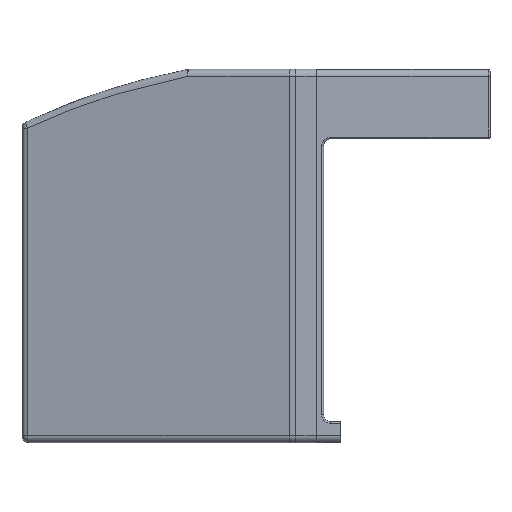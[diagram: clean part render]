
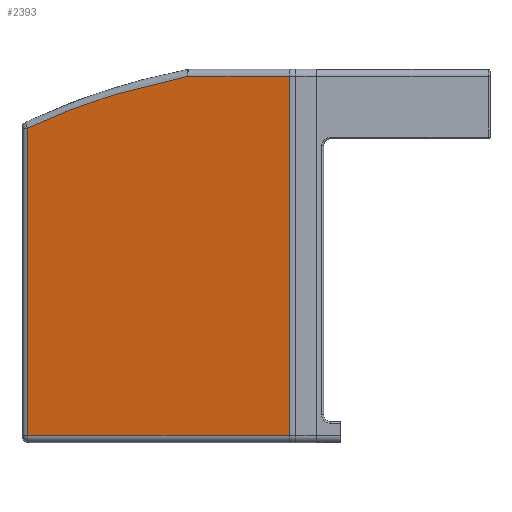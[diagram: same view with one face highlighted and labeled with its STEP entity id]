
A CAD part, front view. The second image highlights one B-rep face of the part: STEP entity #2393.
In plain terms, the highlighted planar face has unit normal (-0.181, -0.984, 0).
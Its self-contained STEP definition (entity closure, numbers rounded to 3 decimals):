
#96 = ORIENTED_EDGE ( 'NONE', *, *, #1885, .T. ) ;
#135 = CARTESIAN_POINT ( 'NONE',  ( -7.896, 0.165, -2. ) ) ;
#357 = EDGE_CURVE ( 'NONE', #743, #1956, #1533, .T. ) ;
#372 = CARTESIAN_POINT ( 'NONE',  ( -83.361, 14.033, -105.7 ) ) ;
#391 = VERTEX_POINT ( 'NONE', #135 ) ;
#482 = ORIENTED_EDGE ( 'NONE', *, *, #2265, .T. ) ;
#596 = DIRECTION ( 'NONE',  ( 0., 0., 1. ) ) ;
#743 = VERTEX_POINT ( 'NONE', #825 ) ;
#751 = LINE ( 'NONE', #1770, #1042 ) ;
#825 = CARTESIAN_POINT ( 'NONE',  ( -37.171, 5.545, -2. ) ) ;
#1042 = VECTOR ( 'NONE', #2045, 1000. ) ;
#1065 = EDGE_LOOP ( 'NONE', ( #2185, #2694, #482, #96, #1760 ) ) ;
#1097 = CARTESIAN_POINT ( 'NONE',  ( -83.361, 14.033, -2. ) ) ;
#1160 = LINE ( 'NONE', #1893, #3383 ) ;
#1427 = EDGE_CURVE ( 'NONE', #1613, #1956, #1160, .T. ) ;
#1429 = CARTESIAN_POINT ( 'NONE',  ( -83.361, 14.033, -16.97 ) ) ;
#1533 =( BOUNDED_CURVE ( )  B_SPLINE_CURVE ( 3, ( #1669, #2735, #3018, #1429 ),
 .UNSPECIFIED., .F., .T. ) 
 B_SPLINE_CURVE_WITH_KNOTS ( ( 4, 4 ),
 ( 1.761, 2.007 ),
 .UNSPECIFIED. ) 
 CURVE ( )  GEOMETRIC_REPRESENTATION_ITEM ( )  RATIONAL_B_SPLINE_CURVE ( ( 1., 0.995, 0.995, 1. ) ) 
 REPRESENTATION_ITEM ( '' )  );
#1545 = VECTOR ( 'NONE', #2115, 1000. ) ;
#1586 = LINE ( 'NONE', #1097, #1545 ) ;
#1613 = VERTEX_POINT ( 'NONE', #372 ) ;
#1614 = DIRECTION ( 'NONE',  ( 0.984, -0.181, 0. ) ) ;
#1665 = EDGE_CURVE ( 'NONE', #1613, #1809, #2709, .T. ) ;
#1669 = CARTESIAN_POINT ( 'NONE',  ( -37.171, 5.545, -2. ) ) ;
#1674 = VECTOR ( 'NONE', #2578, 1000. ) ;
#1760 = ORIENTED_EDGE ( 'NONE', *, *, #357, .T. ) ;
#1770 = CARTESIAN_POINT ( 'NONE',  ( -7.896, 0.165, -107.7 ) ) ;
#1809 = VERTEX_POINT ( 'NONE', #2851 ) ;
#1885 = EDGE_CURVE ( 'NONE', #391, #743, #1586, .T. ) ;
#1893 = CARTESIAN_POINT ( 'NONE',  ( -83.361, 14.033, -107.7 ) ) ;
#1956 = VERTEX_POINT ( 'NONE', #3461 ) ;
#2004 = FACE_OUTER_BOUND ( 'NONE', #1065, .T. ) ;
#2045 = DIRECTION ( 'NONE',  ( 0., 0., 1. ) ) ;
#2115 = DIRECTION ( 'NONE',  ( -0.984, 0.181, 0. ) ) ;
#2185 = ORIENTED_EDGE ( 'NONE', *, *, #1427, .F. ) ;
#2265 = EDGE_CURVE ( 'NONE', #1809, #391, #751, .T. ) ;
#2393 = ADVANCED_FACE ( 'NONE', ( #2004 ), #3200, .T. ) ;
#2509 = AXIS2_PLACEMENT_3D ( 'NONE', #2912, #3223, #1614 ) ;
#2556 = CARTESIAN_POINT ( 'NONE',  ( -7.896, 0.165, -105.7 ) ) ;
#2578 = DIRECTION ( 'NONE',  ( 0.984, -0.181, 0. ) ) ;
#2694 = ORIENTED_EDGE ( 'NONE', *, *, #1665, .T. ) ;
#2709 = LINE ( 'NONE', #2556, #1674 ) ;
#2735 = CARTESIAN_POINT ( 'NONE',  ( -53.144, 8.48, -5.08 ) ) ;
#2851 = CARTESIAN_POINT ( 'NONE',  ( -7.896, 0.165, -105.7 ) ) ;
#2912 = CARTESIAN_POINT ( 'NONE',  ( -83.361, 14.033, -107.7 ) ) ;
#3018 = CARTESIAN_POINT ( 'NONE',  ( -68.618, 11.324, -10.095 ) ) ;
#3200 = PLANE ( 'NONE',  #2509 ) ;
#3223 = DIRECTION ( 'NONE',  ( -0.181, -0.984, 0. ) ) ;
#3383 = VECTOR ( 'NONE', #596, 1000. ) ;
#3461 = CARTESIAN_POINT ( 'NONE',  ( -83.361, 14.033, -16.97 ) ) ;
